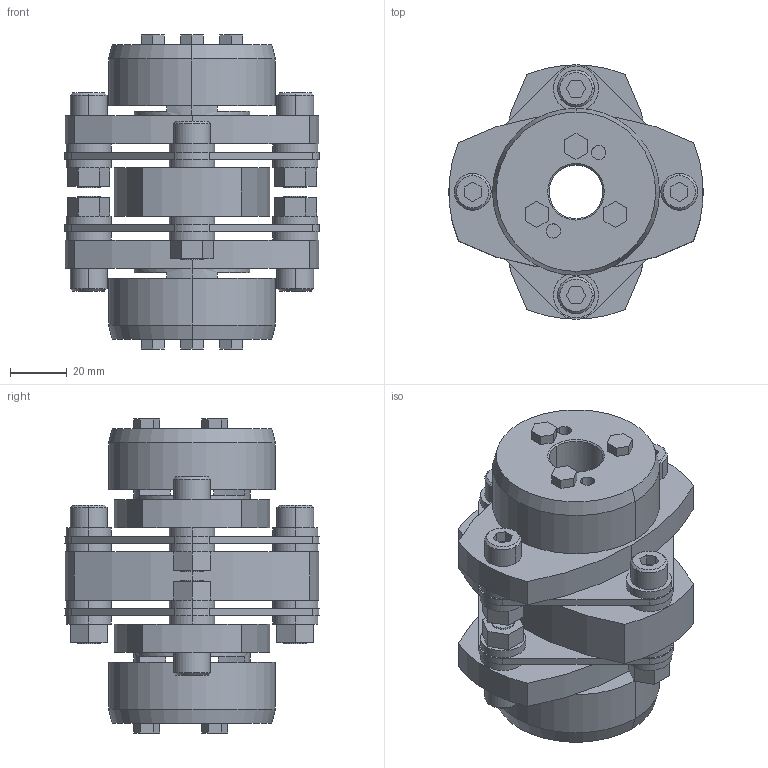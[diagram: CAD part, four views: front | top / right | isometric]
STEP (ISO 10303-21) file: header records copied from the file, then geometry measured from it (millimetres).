
FILE_DESCRIPTION((''),'2;1');
FILE_NAME('LCD-90T7-19×22.stp','2011-09-09T10:30:12',(''),(''),'AutoCAD STEP 2000i','AutoCAD 2000i',', , ');
FILE_SCHEMA(('CONFIG_CONTROL_DESIGN'));
Length unit declared in the file: millimetre
Products named in the file (5): LCD-90T7-19×19; 忣兜1; LC90T7-T019-1; LC90T7-T019; LCD90-ITA
Assembly tree (4 placements, depth 2):
  LCD-90T7-19×19
    忣兜1
    LC90T7-T019-1
    LC90T7-T019
    LCD90-ITA
Bounding box: 90 x 89.94 x 111 mm (x, y, z)
Volume: 275688.4 mm3; surface area: 73906.3 mm2
Topology: 1 solids, 1 shells, 323 faces, 792 edges, 518 vertices
Faces by surface type: plane 179, cylinder 120, cone 24
Entity records: 9755 total; most frequent: DIRECTION 1734, CARTESIAN_POINT 1638, ORIENTED_EDGE 1584, EDGE_CURVE 792, AXIS2_PLACEMENT_3D 614, VERTEX_POINT 518, VECTOR 506, LINE 506
